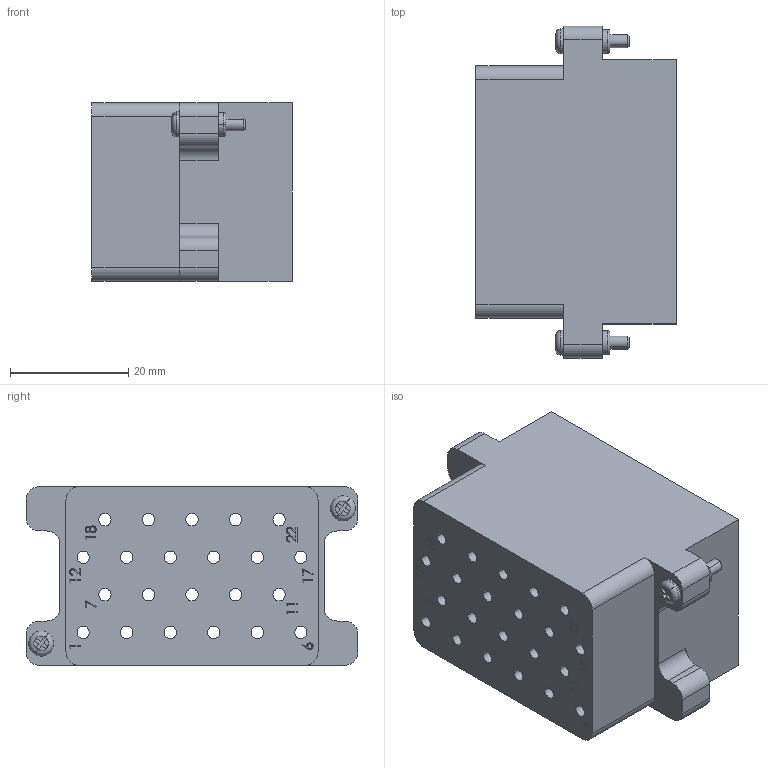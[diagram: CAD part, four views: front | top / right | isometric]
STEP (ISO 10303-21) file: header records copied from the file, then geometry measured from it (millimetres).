
FILE_DESCRIPTION (( 'STEP AP214' ), '1' );
FILE_NAME ('510161133.STEP', '2026-09-18T14:15:40', ( 'VPC Computer Systems' ), ( 'Virginia Panel Corporation' ), 'SwSTEP 2.0', 'SolidWorks 2026', '' );
FILE_SCHEMA (( 'AUTOMOTIVE_DESIGN' ));
Length unit declared in the file: inch
Products named in the file (1): 510161133
Bounding box: 33.93 x 56.13 x 30.23 mm (x, y, z)
Volume: 33197.8 mm3; surface area: 14401.2 mm2
Topology: 1 solids, 3 shells, 368 faces, 927 edges, 610 vertices
Faces by surface type: plane 172, cylinder 128, bspline 44, torus 12, cone 12
Entity records: 13686 total; most frequent: CARTESIAN_POINT 4726, ORIENTED_EDGE 1854, DIRECTION 1785, EDGE_CURVE 927, AXIS2_PLACEMENT_3D 621, VERTEX_POINT 610, LINE 543, VECTOR 543
